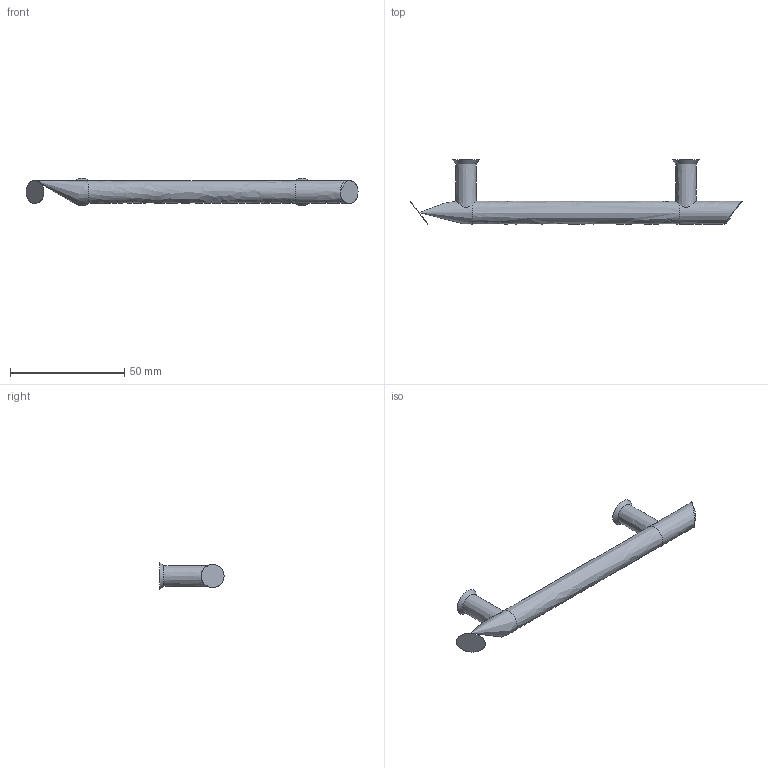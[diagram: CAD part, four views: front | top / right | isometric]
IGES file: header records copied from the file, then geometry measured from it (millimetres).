
Start section: Data from Parasolid IGES Translator 15.0.47, Copyright(c) 2006 Siemens P LM Software. All Rights Reserved.
Global section: file name: 9070430.igs; native system:  By UGS Corp.; preprocessor: XPlus GENERIC/IGES 3.0; author: Noname; organization: Noname; date: 20140122.165930; units: millimetre
Bounding box: 145 x 28 x 11.84 mm (x, y, z)
Surface area: 5866.2 mm2 (no closed solid volume)
Topology: 0 solids, 0 shells, 17 faces, 74 edges, 66 vertices
Faces by surface type: revolution 9, extrusion 8
